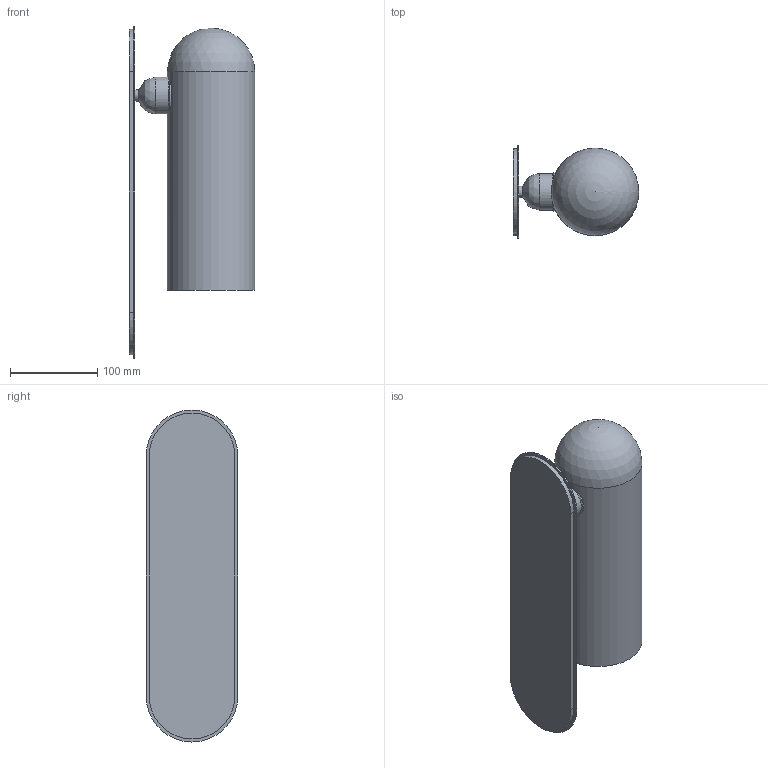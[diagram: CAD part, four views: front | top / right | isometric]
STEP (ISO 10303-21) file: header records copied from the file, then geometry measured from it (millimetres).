
FILE_DESCRIPTION(/* description */ (''),/* implementation_level */ '2;1');
FILE_NAME(/* name */ 'T:\B147 Odyssey Wall Scone LG\Pliki bryłowe handlowe\B147 Odyssey LG 3D files_na stronę\B147 Odyssey LG.stp',/* time_stamp */ '2022-02-02T13:42:11+01:00',/* author */ ('Mariusz Awariusz'),/* organization */ (''),/* preprocessor_version */ 'ST-DEVELOPER v18.1',/* originating_system */ 'Autodesk Inventor 2022',/* authorisation */ '');
FILE_SCHEMA (('CONFIG_CONTROL_DESIGN','AUTOMOTIVE_DESIGN { 1 0 10303 214 3 1 1 }'));
Length unit declared in the file: millimetre
Products named in the file (1): Odyssey Sconce LG CE v11_na potrzeby plików 3D_2_jako część_
korpusy bryłowe
Bounding box: 143.55 x 105 x 380 mm (x, y, z)
Volume: 2499310.7 mm3; surface area: 260493.6 mm2
Topology: 6 solids, 6 shells, 28 faces, 50 edges, 33 vertices
Faces by surface type: plane 15, cylinder 9, bspline 3, sphere 1
Full cylindrical faces by diameter (mm): 13 x1, 37 x1, 42 x1, 44 x1, 100 x1
Entity records: 2087 total; most frequent: CARTESIAN_POINT 1487, DIRECTION 124, ORIENTED_EDGE 98, AXIS2_PLACEMENT_3D 51, EDGE_CURVE 49, VERTEX_POINT 33, EDGE_LOOP 30, FACE_OUTER_BOUND 28
